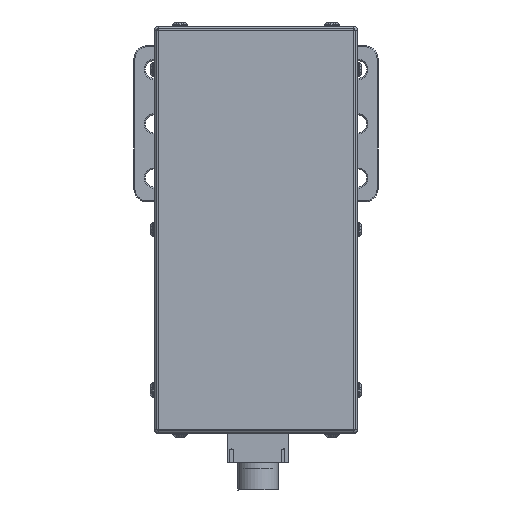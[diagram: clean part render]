
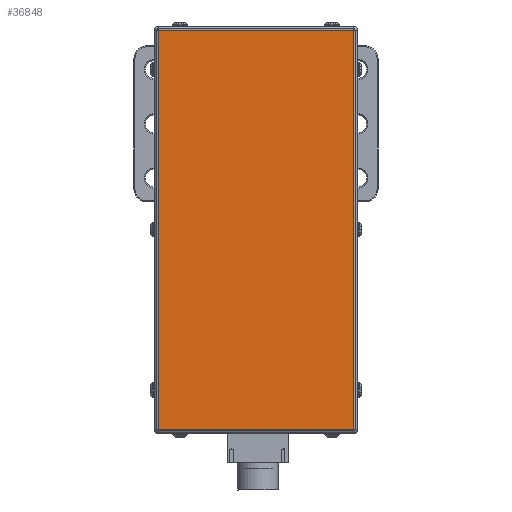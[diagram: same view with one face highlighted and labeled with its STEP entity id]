
A CAD part, front view. The second image highlights one B-rep face of the part: STEP entity #36848.
In plain terms, the highlighted planar face has unit normal (0, -1, 0).
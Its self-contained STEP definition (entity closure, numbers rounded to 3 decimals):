
#35753=DIRECTION('',(1.,0.,0.));
#35754=VECTOR('',#35753,294.);
#35755=CARTESIAN_POINT('',(-147.,-52.5,-72.));
#35756=LINE('',#35755,#35754);
#35757=DIRECTION('',(0.,0.,-1.));
#35758=VECTOR('',#35757,144.);
#35759=CARTESIAN_POINT('',(-147.,-52.5,72.));
#35760=LINE('',#35759,#35758);
#35761=DIRECTION('',(-1.,0.,0.));
#35762=VECTOR('',#35761,294.);
#35763=CARTESIAN_POINT('',(147.,-52.5,72.));
#35764=LINE('',#35763,#35762);
#35765=DIRECTION('',(0.,0.,1.));
#35766=VECTOR('',#35765,144.);
#35767=CARTESIAN_POINT('',(147.,-52.5,-72.));
#35768=LINE('',#35767,#35766);
#36625=CARTESIAN_POINT('',(-147.,-52.5,-72.));
#36626=CARTESIAN_POINT('',(147.,-52.5,-72.));
#36627=VERTEX_POINT('',#36625);
#36628=VERTEX_POINT('',#36626);
#36629=CARTESIAN_POINT('',(147.,-52.5,72.));
#36630=VERTEX_POINT('',#36629);
#36631=CARTESIAN_POINT('',(-147.,-52.5,72.));
#36632=VERTEX_POINT('',#36631);
#36833=CARTESIAN_POINT('',(0.,-52.5,0.));
#36834=DIRECTION('',(0.,1.,0.));
#36835=DIRECTION('',(1.,0.,0.));
#36836=AXIS2_PLACEMENT_3D('',#36833,#36834,#36835);
#36837=PLANE('',#36836);
#36839=ORIENTED_EDGE('',*,*,#36838,.F.);
#36841=ORIENTED_EDGE('',*,*,#36840,.F.);
#36843=ORIENTED_EDGE('',*,*,#36842,.F.);
#36845=ORIENTED_EDGE('',*,*,#36844,.F.);
#36846=EDGE_LOOP('',(#36839,#36841,#36843,#36845));
#36847=FACE_OUTER_BOUND('',#36846,.F.);
#36848=ADVANCED_FACE('',(#36847),#36837,.F.);
#36838=EDGE_CURVE('',#36627,#36628,#35756,.T.);
#36840=EDGE_CURVE('',#36632,#36627,#35760,.T.);
#36842=EDGE_CURVE('',#36630,#36632,#35764,.T.);
#36844=EDGE_CURVE('',#36628,#36630,#35768,.T.);
